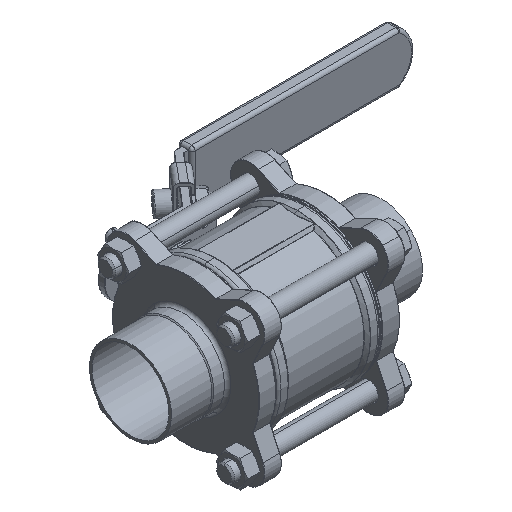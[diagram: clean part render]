
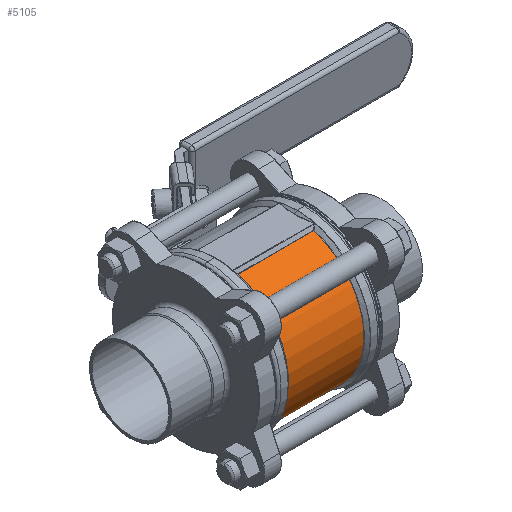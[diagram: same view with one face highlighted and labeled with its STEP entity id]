
A CAD part, isometric view. The second image highlights one B-rep face of the part: STEP entity #5105.
In plain terms, the highlighted cylindrical face has radius 43.5 mm (diameter 87 mm), a partial arc.
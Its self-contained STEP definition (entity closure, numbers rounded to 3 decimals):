
#167 = LINE ( 'NONE', #20292, #1426 ) ;
#224 = DIRECTION ( 'NONE',  ( 1., 0., 0. ) ) ;
#1426 = VECTOR ( 'NONE', #224, 1000. ) ;
#1576 = CARTESIAN_POINT ( 'NONE',  ( -23.417, -12.297, 41.726 ) ) ;
#1794 = VERTEX_POINT ( 'NONE', #1576 ) ;
#2095 = ORIENTED_EDGE ( 'NONE', *, *, #24725, .T. ) ;
#2567 = CYLINDRICAL_SURFACE ( 'NONE', #21568, 43.5 ) ;
#2868 = EDGE_CURVE ( 'NONE', #13263, #11618, #167, .T. ) ;
#4313 = CARTESIAN_POINT ( 'NONE',  ( -23.417, 0., 0. ) ) ;
#4917 = ORIENTED_EDGE ( 'NONE', *, *, #13436, .T. ) ;
#4925 = DIRECTION ( 'NONE',  ( 1., 0., 0. ) ) ;
#5105 = ADVANCED_FACE ( 'NONE', ( #7809 ), #2567, .T. ) ;
#5657 = DIRECTION ( 'NONE',  ( -1., 0., 0. ) ) ;
#7809 = FACE_OUTER_BOUND ( 'NONE', #12264, .T. ) ;
#8203 = AXIS2_PLACEMENT_3D ( 'NONE', #13795, #5657, #19672 ) ;
#8894 = CARTESIAN_POINT ( 'NONE',  ( 23.417, -12.297, -41.726 ) ) ;
#9576 = CARTESIAN_POINT ( 'NONE',  ( 24.418, -12.297, 41.726 ) ) ;
#10841 = DIRECTION ( 'NONE',  ( 0., 0., -1. ) ) ;
#11208 = AXIS2_PLACEMENT_3D ( 'NONE', #4313, #22032, #11998 ) ;
#11344 = EDGE_CURVE ( 'NONE', #1794, #13263, #13267, .T. ) ;
#11618 = VERTEX_POINT ( 'NONE', #8894 ) ;
#11998 = DIRECTION ( 'NONE',  ( 0., 0., -1. ) ) ;
#12264 = EDGE_LOOP ( 'NONE', ( #4917, #21199, #12530, #2095 ) ) ;
#12530 = ORIENTED_EDGE ( 'NONE', *, *, #2868, .T. ) ;
#13149 = LINE ( 'NONE', #9576, #24923 ) ;
#13263 = VERTEX_POINT ( 'NONE', #20739 ) ;
#13267 = CIRCLE ( 'NONE', #11208, 43.5 ) ;
#13436 = EDGE_CURVE ( 'NONE', #14599, #1794, #13149, .T. ) ;
#13795 = CARTESIAN_POINT ( 'NONE',  ( 23.417, 0., 0. ) ) ;
#14599 = VERTEX_POINT ( 'NONE', #16440 ) ;
#15340 = CIRCLE ( 'NONE', #8203, 43.5 ) ;
#16440 = CARTESIAN_POINT ( 'NONE',  ( 23.417, -12.297, 41.726 ) ) ;
#19573 = DIRECTION ( 'NONE',  ( -1., 0., 0. ) ) ;
#19672 = DIRECTION ( 'NONE',  ( 0., 0., -1. ) ) ;
#20292 = CARTESIAN_POINT ( 'NONE',  ( 24.418, -12.297, -41.726 ) ) ;
#20739 = CARTESIAN_POINT ( 'NONE',  ( -23.417, -12.297, -41.726 ) ) ;
#21199 = ORIENTED_EDGE ( 'NONE', *, *, #11344, .T. ) ;
#21568 = AXIS2_PLACEMENT_3D ( 'NONE', #22668, #4925, #10841 ) ;
#22032 = DIRECTION ( 'NONE',  ( 1., 0., 0. ) ) ;
#22668 = CARTESIAN_POINT ( 'NONE',  ( 24.418, 0., 0. ) ) ;
#24725 = EDGE_CURVE ( 'NONE', #11618, #14599, #15340, .T. ) ;
#24923 = VECTOR ( 'NONE', #19573, 1000. ) ;
